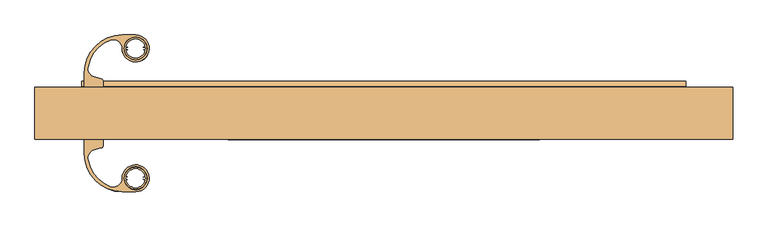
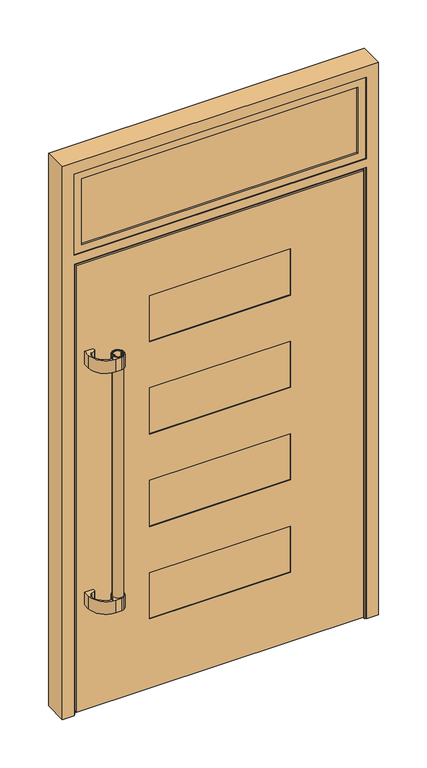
"""IFC4 building model written with IfcOpenShell, lengths in millimetres: door geometry, Jednokrilna vrata s nadsvijetlom : Jednokrilna vrata s nadsvijetlom."""

from ifc_helpers import new_model, si_unit, point, frame, frame_2d, origin, place, context, project, spatial, polyline, circle_curve, trimmed, segment, composite_curve, outline, extrude, faceted_brep, source, transform, mapped, element, save
from ifc_brep_helpers import plane_surface, cylinder_surface, advanced_brep


def door_2316798d(model_context):
    return source(origin(), model_context, "Body", "SolidModel", [
        extrude(outline(composite_curve([segment(trimmed(circle_curve(frame_2d((-419.6507656, 128.9439265)), 19.0), [point((-438.6507656, 128.9439265))], [point((-400.6507656, 128.9439265))], False, "CARTESIAN"), True, "CONTINUOUS"), segment(trimmed(circle_curve(frame_2d((-419.6507656, 128.9439265)), 19.0), [point((-400.6507656, 128.9439265))], [point((-438.6507656, 128.9439265))], False, "CARTESIAN"), True, "CONTINUOUS")], self_intersect=False), holes=[composite_curve([segment(trimmed(circle_curve(frame_2d((-434.1107656, 128.9439265)), 1.55), [point((-433.0147501, 130.039942))], [point((-433.0147501, 127.847911))], True, "CARTESIAN"), True, "CONTINUOUS"), segment(polyline([(-433.0147501, 127.847911), (-431.8681489, 127.847911), (-431.8681489, 126.8767617)]), True, "CONTINUOUS"), segment(trimmed(circle_curve(frame_2d((-434.1107656, 128.9439265)), 3.05), [point((-431.8681489, 126.8767617))], [point((-434.1107656, 125.8939265))], False, "CARTESIAN"), True, "CONTINUOUS"), segment(polyline([(-434.1107656, 125.8939265), (-435.3573725, 125.8939265)]), True, "CONTINUOUS"), segment(trimmed(circle_curve(frame_2d((-419.6507656, 128.9439265)), 16.0), [point((-435.3573725, 125.8939265))], [point((-403.9441587, 125.8939265))], True, "CARTESIAN"), True, "CONTINUOUS"), segment(polyline([(-403.9441587, 125.8939265), (-405.1507656, 125.8939265)]), True, "CONTINUOUS"), segment(trimmed(circle_curve(frame_2d((-405.1507656, 128.9439265)), 3.05), [point((-405.1507656, 125.8939265))], [point((-407.3933824, 126.8767617))], False, "CARTESIAN"), True, "CONTINUOUS"), segment(polyline([(-407.3933824, 126.8767617), (-407.3933824, 127.847911), (-406.2467811, 127.847911)]), True, "CONTINUOUS"), segment(trimmed(circle_curve(frame_2d((-405.1507656, 128.9439265)), 1.55), [point((-406.2467811, 127.847911))], [point((-406.2467811, 130.039942))], True, "CARTESIAN"), True, "CONTINUOUS"), segment(polyline([(-406.2467811, 130.039942), (-407.3933824, 130.039942), (-407.3933824, 131.0110912)]), True, "CONTINUOUS"), segment(trimmed(circle_curve(frame_2d((-405.1507656, 128.9439265)), 3.05), [point((-407.3933824, 131.0110912))], [point((-405.1507656, 131.9939265))], False, "CARTESIAN"), True, "CONTINUOUS"), segment(polyline([(-405.1507656, 131.9939265), (-403.9441587, 131.9939265)]), True, "CONTINUOUS"), segment(trimmed(circle_curve(frame_2d((-419.6507656, 128.9439265)), 16.0), [point((-403.9441587, 131.9939265))], [point((-435.3573725, 131.9939265))], True, "CARTESIAN"), True, "CONTINUOUS"), segment(polyline([(-435.3573725, 131.9939265), (-434.1107656, 131.9939265)]), True, "CONTINUOUS"), segment(trimmed(circle_curve(frame_2d((-434.1107656, 128.9439265)), 3.05), [point((-434.1107656, 131.9939265))], [point((-431.8681489, 131.0110912))], False, "CARTESIAN"), True, "CONTINUOUS"), segment(polyline([(-431.8681489, 131.0110912), (-431.8681489, 130.039942), (-433.0147501, 130.039942)]), True, "CONTINUOUS")], self_intersect=False)]), frame((0.0, 0.0, 432.75), z_axis=(0.0, 0.0, 1.0), x_axis=(1.0, 0.0, 0.0)), (0.0, 0.0, 1.0), 1000.0),
        extrude(outline(composite_curve([segment(polyline([(-501.1976428, 63.4961642), (-506.1976428, 63.4961642), (-506.1976428, 87.6939265)]), True, "CONTINUOUS"), segment(trimmed(circle_curve(frame_2d((-442.2004018, 87.6939265)), 63.997241), [point((-506.1976428, 87.6939265))], [point((-442.2004018, 151.6911674))], False, "CARTESIAN"), True, "CONTINUOUS"), segment(polyline([(-442.2004018, 151.6911674), (-419.2964649, 151.6911674)]), True, "CONTINUOUS"), segment(trimmed(circle_curve(frame_2d((-419.7149101, 128.7516188)), 22.9433648), [point((-419.2964649, 151.6911674))], [point((-406.2786511, 147.3490631))], False, "CARTESIAN"), True, "CONTINUOUS"), segment(trimmed(circle_curve(frame_2d((-419.5730284, 128.9480005)), 22.7010919), [point((-406.2786511, 147.3490631))], [point((-404.4280443, 112.0373817))], False, "CARTESIAN"), True, "CONTINUOUS"), segment(trimmed(circle_curve(frame_2d((-419.6558242, 129.0404487)), 22.8251959), [point((-404.4280443, 112.0373817))], [point((-433.0228801, 110.5387898))], False, "CARTESIAN"), True, "CONTINUOUS"), segment(trimmed(circle_curve(frame_2d((-419.769133, 128.8836153)), 22.631713), [point((-433.0228801, 110.5387898))], [point((-442.4007656, 128.9439265))], False, "CARTESIAN"), True, "CONTINUOUS"), segment(trimmed(circle_curve(frame_2d((-457.4007573, 128.9839)), 15.0000449), [point((-442.4007656, 128.9439265))], [point((-462.5686195, 143.0656097))], True, "CARTESIAN"), True, "CONTINUOUS"), segment(trimmed(circle_curve(frame_2d((-442.2699801, 87.7546247)), 58.9180773), [point((-462.5686195, 143.0656097))], [point((-500.2654887, 98.1402304))], True, "CARTESIAN"), True, "CONTINUOUS"), segment(trimmed(circle_curve(frame_2d((-485.5506214, 95.2098427)), 15.0038159), [point((-500.2654887, 98.1402304))], [point((-489.4338947, 80.7172694))], True, "CARTESIAN"), True, "CONTINUOUS"), segment(polyline([(-489.4338947, 80.7172694), (-477.9035475, 77.6277222)]), True, "CONTINUOUS"), segment(trimmed(circle_curve(frame_2d((-479.1976428, 72.7980931)), 5.0), [point((-477.9035475, 77.6277222))], [point((-474.1976428, 72.7980931))], False, "CARTESIAN"), True, "CONTINUOUS"), segment(polyline([(-474.1976428, 72.7980931), (-474.1976428, 63.4961642), (-501.1976428, 63.4961642)]), True, "CONTINUOUS")], self_intersect=False), holes=[composite_curve([segment(trimmed(circle_curve(frame_2d((-419.6507656, 128.9439265)), 19.25), [point((-438.9007656, 128.9439265))], [point((-400.4007656, 128.9439265))], True, "CARTESIAN"), True, "CONTINUOUS"), segment(trimmed(circle_curve(frame_2d((-419.6507656, 128.9439265)), 19.25), [point((-400.4007656, 128.9439265))], [point((-438.9007656, 128.9439265))], True, "CARTESIAN"), True, "CONTINUOUS")], self_intersect=False)]), frame((0.0, 0.0, 1382.75), z_axis=(0.0, 0.0, 1.0), x_axis=(1.0, 0.0, 0.0)), (0.0, 0.0, 1.0), 50.0),
        extrude(outline(composite_curve([segment(polyline([(-501.1976428, 63.4961642), (-506.1976428, 63.4961642), (-506.1976428, 87.6939265)]), True, "CONTINUOUS"), segment(trimmed(circle_curve(frame_2d((-442.2004018, 87.6939265)), 63.997241), [point((-506.1976428, 87.6939265))], [point((-442.2004018, 151.6911674))], False, "CARTESIAN"), True, "CONTINUOUS"), segment(polyline([(-442.2004018, 151.6911674), (-419.2964649, 151.6911674)]), True, "CONTINUOUS"), segment(trimmed(circle_curve(frame_2d((-419.7149101, 128.7516188)), 22.9433648), [point((-419.2964649, 151.6911674))], [point((-406.2786511, 147.3490631))], False, "CARTESIAN"), True, "CONTINUOUS"), segment(trimmed(circle_curve(frame_2d((-419.5730284, 128.9480005)), 22.7010919), [point((-406.2786511, 147.3490631))], [point((-404.4280443, 112.0373817))], False, "CARTESIAN"), True, "CONTINUOUS"), segment(trimmed(circle_curve(frame_2d((-419.6558242, 129.0404487)), 22.8251959), [point((-404.4280443, 112.0373817))], [point((-433.0228801, 110.5387898))], False, "CARTESIAN"), True, "CONTINUOUS"), segment(trimmed(circle_curve(frame_2d((-419.769133, 128.8836153)), 22.631713), [point((-433.0228801, 110.5387898))], [point((-442.4007656, 128.9439265))], False, "CARTESIAN"), True, "CONTINUOUS"), segment(trimmed(circle_curve(frame_2d((-457.4007573, 128.9839)), 15.0000449), [point((-442.4007656, 128.9439265))], [point((-462.5686195, 143.0656097))], True, "CARTESIAN"), True, "CONTINUOUS"), segment(trimmed(circle_curve(frame_2d((-442.2699801, 87.7546247)), 58.9180773), [point((-462.5686195, 143.0656097))], [point((-500.2654887, 98.1402304))], True, "CARTESIAN"), True, "CONTINUOUS"), segment(trimmed(circle_curve(frame_2d((-485.5506214, 95.2098427)), 15.0038159), [point((-500.2654887, 98.1402304))], [point((-489.4338947, 80.7172694))], True, "CARTESIAN"), True, "CONTINUOUS"), segment(polyline([(-489.4338947, 80.7172694), (-477.9035475, 77.6277222)]), True, "CONTINUOUS"), segment(trimmed(circle_curve(frame_2d((-479.1976428, 72.7980931)), 5.0), [point((-477.9035475, 77.6277222))], [point((-474.1976428, 72.7980931))], False, "CARTESIAN"), True, "CONTINUOUS"), segment(polyline([(-474.1976428, 72.7980931), (-474.1976428, 63.4961642), (-501.1976428, 63.4961642)]), True, "CONTINUOUS")], self_intersect=False), holes=[composite_curve([segment(trimmed(circle_curve(frame_2d((-419.6507656, 128.9439265)), 19.25), [point((-438.9007656, 128.9439265))], [point((-400.4007656, 128.9439265))], True, "CARTESIAN"), True, "CONTINUOUS"), segment(trimmed(circle_curve(frame_2d((-419.6507656, 128.9439265)), 19.25), [point((-400.4007656, 128.9439265))], [point((-438.9007656, 128.9439265))], True, "CARTESIAN"), True, "CONTINUOUS")], self_intersect=False)]), frame((0.0, 0.0, 432.75), z_axis=(0.0, 0.0, 1.0), x_axis=(1.0, 0.0, 0.0)), (0.0, 0.0, 1.0), 50.0),
        extrude(outline(composite_curve([segment(trimmed(circle_curve(frame_2d((-419.6507656, -90.4477309)), 19.0), [point((-438.6507656, -90.4477309))], [point((-400.6507656, -90.4477309))], False, "CARTESIAN"), True, "CONTINUOUS"), segment(trimmed(circle_curve(frame_2d((-419.6507656, -90.4477309)), 19.0), [point((-400.6507656, -90.4477309))], [point((-438.6507656, -90.4477309))], False, "CARTESIAN"), True, "CONTINUOUS")], self_intersect=False), holes=[composite_curve([segment(polyline([(-433.0147501, -91.5437465), (-431.8681489, -91.5437465), (-431.8681489, -92.5148957)]), True, "CONTINUOUS"), segment(trimmed(circle_curve(frame_2d((-434.1107656, -90.4477309)), 3.05), [point((-431.8681489, -92.5148957))], [point((-434.1107656, -93.4977309))], False, "CARTESIAN"), True, "CONTINUOUS"), segment(polyline([(-434.1107656, -93.4977309), (-435.3573725, -93.4977309)]), True, "CONTINUOUS"), segment(trimmed(circle_curve(frame_2d((-419.6507656, -90.4477309)), 16.0), [point((-435.3573725, -93.4977309))], [point((-403.9441587, -93.4977309))], True, "CARTESIAN"), True, "CONTINUOUS"), segment(polyline([(-403.9441587, -93.4977309), (-405.1507656, -93.4977309)]), True, "CONTINUOUS"), segment(trimmed(circle_curve(frame_2d((-405.1507656, -90.4477309)), 3.05), [point((-405.1507656, -93.4977309))], [point((-407.3933824, -92.5148957))], False, "CARTESIAN"), True, "CONTINUOUS"), segment(polyline([(-407.3933824, -92.5148957), (-407.3933824, -91.5437465), (-406.2467811, -91.5437465)]), True, "CONTINUOUS"), segment(trimmed(circle_curve(frame_2d((-405.1507656, -90.4477309)), 1.55), [point((-406.2467811, -91.5437465))], [point((-406.2467811, -89.3517154))], True, "CARTESIAN"), True, "CONTINUOUS"), segment(polyline([(-406.2467811, -89.3517154), (-407.3933824, -89.3517154), (-407.3933824, -88.3805662)]), True, "CONTINUOUS"), segment(trimmed(circle_curve(frame_2d((-405.1507656, -90.4477309)), 3.05), [point((-407.3933824, -88.3805662))], [point((-405.1507656, -87.3977309))], False, "CARTESIAN"), True, "CONTINUOUS"), segment(polyline([(-405.1507656, -87.3977309), (-403.9441587, -87.3977309)]), True, "CONTINUOUS"), segment(trimmed(circle_curve(frame_2d((-419.6507656, -90.4477309)), 16.0), [point((-403.9441587, -87.3977309))], [point((-435.3573725, -87.3977309))], True, "CARTESIAN"), True, "CONTINUOUS"), segment(polyline([(-435.3573725, -87.3977309), (-434.1107656, -87.3977309)]), True, "CONTINUOUS"), segment(trimmed(circle_curve(frame_2d((-434.1107656, -90.4477309)), 3.05), [point((-434.1107656, -87.3977309))], [point((-431.8681489, -88.3805662))], False, "CARTESIAN"), True, "CONTINUOUS"), segment(polyline([(-431.8681489, -88.3805662), (-431.8681489, -89.3517154), (-433.0147501, -89.3517154)]), True, "CONTINUOUS"), segment(trimmed(circle_curve(frame_2d((-434.1107656, -90.4477309)), 1.55), [point((-433.0147501, -89.3517154))], [point((-433.0147501, -91.5437465))], True, "CARTESIAN"), True, "CONTINUOUS")], self_intersect=False)]), frame((0.0, 0.0, 432.75), z_axis=(0.0, 0.0, 1.0), x_axis=(1.0, 0.0, 0.0)), (0.0, 0.0, 1.0), 1000.0),
        extrude(outline(composite_curve([segment(polyline([(-501.1976428, -24.9999687), (-474.1976428, -24.9999687), (-474.1976428, -34.3018976)]), True, "CONTINUOUS"), segment(trimmed(circle_curve(frame_2d((-479.1976428, -34.3018976)), 5.0), [point((-474.1976428, -34.3018976))], [point((-477.9035475, -39.1315267))], False, "CARTESIAN"), True, "CONTINUOUS"), segment(polyline([(-477.9035475, -39.1315267), (-489.4338947, -42.2210739)]), True, "CONTINUOUS"), segment(trimmed(circle_curve(frame_2d((-485.5506214, -56.7136472)), 15.0038159), [point((-489.4338947, -42.2210739))], [point((-500.2654887, -59.6440348))], True, "CARTESIAN"), True, "CONTINUOUS"), segment(trimmed(circle_curve(frame_2d((-442.2699801, -49.2584292)), 58.9180773), [point((-500.2654887, -59.6440348))], [point((-462.5686195, -104.5694142))], True, "CARTESIAN"), True, "CONTINUOUS"), segment(trimmed(circle_curve(frame_2d((-457.4007573, -90.4877045)), 15.0000449), [point((-462.5686195, -104.5694142))], [point((-442.4007656, -90.4477309))], True, "CARTESIAN"), True, "CONTINUOUS"), segment(trimmed(circle_curve(frame_2d((-419.769133, -90.3874198)), 22.631713), [point((-442.4007656, -90.4477309))], [point((-433.0228801, -72.0425943))], False, "CARTESIAN"), True, "CONTINUOUS"), segment(trimmed(circle_curve(frame_2d((-419.6558242, -90.5442532)), 22.8251959), [point((-433.0228801, -72.0425943))], [point((-404.4280443, -73.5411862))], False, "CARTESIAN"), True, "CONTINUOUS"), segment(trimmed(circle_curve(frame_2d((-419.5730284, -90.451805)), 22.7010919), [point((-404.4280443, -73.5411862))], [point((-406.2786511, -108.8528676))], False, "CARTESIAN"), True, "CONTINUOUS"), segment(trimmed(circle_curve(frame_2d((-419.7149101, -90.2554233)), 22.9433648), [point((-406.2786511, -108.8528676))], [point((-419.2964649, -113.1949719))], False, "CARTESIAN"), True, "CONTINUOUS"), segment(polyline([(-419.2964649, -113.1949719), (-442.2004018, -113.1949719)]), True, "CONTINUOUS"), segment(trimmed(circle_curve(frame_2d((-442.2004018, -49.1977309)), 63.997241), [point((-442.2004018, -113.1949719))], [point((-506.1976428, -49.1977309))], False, "CARTESIAN"), True, "CONTINUOUS"), segment(polyline([(-506.1976428, -49.1977309), (-506.1976428, -24.9999687), (-501.1976428, -24.9999687)]), True, "CONTINUOUS")], self_intersect=False), holes=[composite_curve([segment(trimmed(circle_curve(frame_2d((-419.6507656, -90.4477309)), 19.25), [point((-438.9007656, -90.4477309))], [point((-400.4007656, -90.4477309))], True, "CARTESIAN"), True, "CONTINUOUS"), segment(trimmed(circle_curve(frame_2d((-419.6507656, -90.4477309)), 19.25), [point((-400.4007656, -90.4477309))], [point((-438.9007656, -90.4477309))], True, "CARTESIAN"), True, "CONTINUOUS")], self_intersect=False)]), frame((0.0, 0.0, 1382.75), z_axis=(0.0, 0.0, 1.0), x_axis=(1.0, 0.0, 0.0)), (0.0, 0.0, 1.0), 50.0),
        extrude(outline(composite_curve([segment(polyline([(-501.1976428, -24.9999687), (-474.1976428, -24.9999687), (-474.1976428, -34.3018976)]), True, "CONTINUOUS"), segment(trimmed(circle_curve(frame_2d((-479.1976428, -34.3018976)), 5.0), [point((-474.1976428, -34.3018976))], [point((-477.9035475, -39.1315267))], False, "CARTESIAN"), True, "CONTINUOUS"), segment(polyline([(-477.9035475, -39.1315267), (-489.4338947, -42.2210739)]), True, "CONTINUOUS"), segment(trimmed(circle_curve(frame_2d((-485.5506214, -56.7136472)), 15.0038159), [point((-489.4338947, -42.2210739))], [point((-500.2654887, -59.6440348))], True, "CARTESIAN"), True, "CONTINUOUS"), segment(trimmed(circle_curve(frame_2d((-442.2699801, -49.2584292)), 58.9180773), [point((-500.2654887, -59.6440348))], [point((-462.5686195, -104.5694142))], True, "CARTESIAN"), True, "CONTINUOUS"), segment(trimmed(circle_curve(frame_2d((-457.4007573, -90.4877045)), 15.0000449), [point((-462.5686195, -104.5694142))], [point((-442.4007656, -90.4477309))], True, "CARTESIAN"), True, "CONTINUOUS"), segment(trimmed(circle_curve(frame_2d((-419.769133, -90.3874198)), 22.631713), [point((-442.4007656, -90.4477309))], [point((-433.0228801, -72.0425943))], False, "CARTESIAN"), True, "CONTINUOUS"), segment(trimmed(circle_curve(frame_2d((-419.6558242, -90.5442532)), 22.8251959), [point((-433.0228801, -72.0425943))], [point((-404.4280443, -73.5411862))], False, "CARTESIAN"), True, "CONTINUOUS"), segment(trimmed(circle_curve(frame_2d((-419.5730284, -90.451805)), 22.7010919), [point((-404.4280443, -73.5411862))], [point((-406.2786511, -108.8528676))], False, "CARTESIAN"), True, "CONTINUOUS"), segment(trimmed(circle_curve(frame_2d((-419.7149101, -90.2554233)), 22.9433648), [point((-406.2786511, -108.8528676))], [point((-419.2964649, -113.1949719))], False, "CARTESIAN"), True, "CONTINUOUS"), segment(polyline([(-419.2964649, -113.1949719), (-442.2004018, -113.1949719)]), True, "CONTINUOUS"), segment(trimmed(circle_curve(frame_2d((-442.2004018, -49.1977309)), 63.997241), [point((-442.2004018, -113.1949719))], [point((-506.1976428, -49.1977309))], False, "CARTESIAN"), True, "CONTINUOUS"), segment(polyline([(-506.1976428, -49.1977309), (-506.1976428, -24.9999687), (-501.1976428, -24.9999687)]), True, "CONTINUOUS")], self_intersect=False), holes=[composite_curve([segment(trimmed(circle_curve(frame_2d((-419.6507656, -90.4477309)), 19.25), [point((-438.9007656, -90.4477309))], [point((-400.4007656, -90.4477309))], True, "CARTESIAN"), True, "CONTINUOUS"), segment(trimmed(circle_curve(frame_2d((-419.6507656, -90.4477309)), 19.25), [point((-400.4007656, -90.4477309))], [point((-438.9007656, -90.4477309))], True, "CARTESIAN"), True, "CONTINUOUS")], self_intersect=False)]), frame((0.0, 0.0, 432.75), z_axis=(0.0, 0.0, 1.0), x_axis=(1.0, 0.0, 0.0)), (0.0, 0.0, 1.0), 50.0),
        extrude(outline(polyline([(263.0017189, 59.8961642), (263.0017189, -21.4999687), (-263.0017189, -21.4999687), (-263.0017189, 59.8961642), (263.0017189, 59.8961642)])), frame((0.0, 0.0, 245.85), z_axis=(0.0, 0.0, 1.0), x_axis=(1.0, 0.0, 0.0)), (0.0, 0.0, 1.0), 1383.4633548),
        faceted_brep([(510.4978035, 55.0006629, 34.3057913), (510.4978035, 56.2006629, 34.3057913), (510.4978035, 56.2006629, 43.8984108), (510.4978035, 64.4629841, 43.8984108), (510.4978035, 72.0042982, 35.8113415), (510.4978035, 72.0042982, 33.9357913), (510.4978035, 73.5042982, 33.9357913), (510.4978035, 73.5042982, 35.9623235), (510.4978035, 65.0744802, 45.0021965), (510.4978035, 63.4961642, 45.0021965), (510.4978035, 63.4961642, 1754.9978035), (510.4978035, 55.0006629, 1754.9978035), (-510.4978035, 55.0006629, 34.3057913), (-510.4978035, 56.2006629, 34.3057913), (-510.4978035, 56.2006629, 43.8984108), (-510.4978035, 64.4629841, 43.8984108), (-510.4978035, 72.0042982, 35.8113415), (-510.4978035, 72.0042982, 33.9357913), (-510.4978035, 73.5042982, 33.9357913), (-510.4978035, 73.5042982, 35.9623235), (-510.4978035, 65.0744802, 45.0021965), (-510.4978035, 63.4961642, 45.0021965), (-510.4978035, 63.4961642, 1754.9978035), (263.0017189, 63.4961642, 839.0325), (-263.0017189, 63.4961642, 839.0325), (-263.0017189, 63.4961642, 656.805), (263.0017189, 63.4961642, 656.805), (263.0017189, 63.4961642, 474.5775), (-263.0017189, 63.4961642, 474.5775), (-263.0017189, 63.4961642, 292.35), (263.0017189, 63.4961642, 292.35), (263.0017189, 63.4961642, 1567.9425), (-263.0017189, 63.4961642, 1567.9425), (-263.0017189, 63.4961642, 1385.715), (263.0017189, 63.4961642, 1385.715), (263.0017189, 63.4961642, 1203.4875), (-263.0017189, 63.4961642, 1203.4875), (-263.0017189, 63.4961642, 1021.26), (263.0017189, 63.4961642, 1021.26), (524.4976416, 55.0006629, 1768.9976416), (524.4976416, 55.0006629, 31.0023584), (-524.4976416, 55.0006629, 31.0023584), (-524.4976416, 55.0006629, 1768.9976416), (-510.4978035, 55.0006629, 1754.9978035), (455.0017189, -21.4999687, 1699.5017189), (455.0017189, 59.8961642, 1699.5017189), (455.0017189, 59.8961642, 100.4982811), (455.0017189, -21.4999687, 100.4982811), (-455.0017189, 59.8961642, 1699.5017189), (-455.0017189, 59.8961642, 100.4982811), (-263.0017189, 59.8961642, 839.0325), (263.0017189, 59.8961642, 839.0325), (263.0017189, 59.8961642, 656.805), (-263.0017189, 59.8961642, 656.805), (-263.0017189, 59.8961642, 474.5775), (263.0017189, 59.8961642, 474.5775), (263.0017189, 59.8961642, 292.35), (-263.0017189, 59.8961642, 292.35), (-263.0017189, 59.8961642, 1567.9425), (263.0017189, 59.8961642, 1567.9425), (263.0017189, 59.8961642, 1385.715), (-263.0017189, 59.8961642, 1385.715), (-263.0017189, 59.8961642, 1203.4875), (263.0017189, 59.8961642, 1203.4875), (263.0017189, 59.8961642, 1021.26), (-263.0017189, 59.8961642, 1021.26), (-455.0017189, -21.4999687, 100.4982811), (-455.0017189, -21.4999687, 1699.5017189), (263.0017189, -21.4999687, 839.0325), (-263.0017189, -21.4999687, 839.0325), (-263.0017189, -21.4999687, 656.805), (263.0017189, -21.4999687, 656.805), (263.0017189, -21.4999687, 474.5775), (-263.0017189, -21.4999687, 474.5775), (-263.0017189, -21.4999687, 292.35), (263.0017189, -21.4999687, 292.35), (263.0017189, -21.4999687, 1567.9425), (-263.0017189, -21.4999687, 1567.9425), (-263.0017189, -21.4999687, 1385.715), (263.0017189, -21.4999687, 1385.715), (263.0017189, -21.4999687, 1203.4875), (-263.0017189, -21.4999687, 1203.4875), (-263.0017189, -21.4999687, 1021.26), (263.0017189, -21.4999687, 1021.26), (535.4976428, -13.0033384, 1779.9976428), (535.4976428, -13.0033384, 20.0023572), (-535.4976428, -13.0033384, 20.0023572), (-535.4976428, -13.0033384, 1779.9976428), (524.4976416, -13.0033384, 31.0023584), (524.4976416, -13.0033384, 1768.9976416), (-524.4976416, -13.0033384, 1768.9976416), (-524.4976416, -13.0033384, 31.0023584), (535.4976428, -24.9999687, 1779.9976428), (535.4976428, -24.9999687, 20.0023572), (-535.4976428, -24.9999687, 1779.9976428), (-535.4976428, -24.9999687, 20.0023572), (-263.0017189, -24.9999687, 839.0325), (263.0017189, -24.9999687, 839.0325), (263.0017189, -24.9999687, 656.805), (-263.0017189, -24.9999687, 656.805), (-263.0017189, -24.9999687, 474.5775), (263.0017189, -24.9999687, 474.5775), (263.0017189, -24.9999687, 292.35), (-263.0017189, -24.9999687, 292.35), (-263.0017189, -24.9999687, 1567.9425), (263.0017189, -24.9999687, 1567.9425), (263.0017189, -24.9999687, 1385.715), (-263.0017189, -24.9999687, 1385.715), (-263.0017189, -24.9999687, 1203.4875), (263.0017189, -24.9999687, 1203.4875), (263.0017189, -24.9999687, 1021.26), (-263.0017189, -24.9999687, 1021.26)], [[[0, 1, 2, 3, 4, 5, 6, 7, 8, 9, 10, 11]], [[12, 13, 1, 0]], [[13, 14, 2, 1]], [[14, 15, 3, 2]], [[15, 16, 4, 3]], [[16, 17, 5, 4]], [[17, 18, 6, 5]], [[18, 19, 7, 6]], [[19, 20, 8, 7]], [[8, 20, 21, 9]], [[10, 9, 21, 22], [23, 24, 25, 26], [27, 28, 29, 30], [31, 32, 33, 34], [35, 36, 37, 38]], [[39, 40, 41, 42], [0, 11, 43, 12]], [[44, 45, 46, 47]], [[46, 45, 48, 49], [50, 51, 52, 53], [54, 55, 56, 57], [58, 59, 60, 61], [62, 63, 64, 65]], [[47, 46, 49, 66]], [[44, 47, 66, 67], [68, 69, 70, 71], [72, 73, 74, 75], [76, 77, 78, 79], [80, 81, 82, 83]], [[84, 85, 86, 87], [88, 89, 90, 91]], [[85, 84, 92, 93]], [[92, 94, 95, 93], [96, 97, 98, 99], [100, 101, 102, 103], [104, 105, 106, 107], [108, 109, 110, 111]], [[86, 85, 93, 95]], [[89, 88, 40, 39]], [[40, 88, 91, 41]], [[66, 49, 48, 67]], [[87, 86, 95, 94]], [[41, 91, 90, 42]], [[43, 22, 21, 20, 19, 18, 17, 16, 15, 14, 13, 12]], [[23, 51, 50, 24]], [[68, 97, 96, 69]], [[51, 23, 26, 52]], [[97, 68, 71, 98]], [[25, 53, 52, 26]], [[70, 99, 98, 71]], [[24, 50, 53, 25]], [[69, 96, 99, 70]], [[27, 55, 54, 28]], [[72, 101, 100, 73]], [[55, 27, 30, 56]], [[101, 72, 75, 102]], [[29, 57, 56, 30]], [[74, 103, 102, 75]], [[28, 54, 57, 29]], [[73, 100, 103, 74]], [[43, 11, 10, 22]], [[45, 44, 67, 48]], [[84, 87, 94, 92]], [[89, 39, 42, 90]], [[31, 59, 58, 32]], [[76, 105, 104, 77]], [[32, 58, 61, 33]], [[77, 104, 107, 78]], [[33, 61, 60, 34]], [[78, 107, 106, 79]], [[59, 31, 34, 60]], [[105, 76, 79, 106]], [[35, 63, 62, 36]], [[80, 109, 108, 81]], [[36, 62, 65, 37]], [[81, 108, 111, 82]], [[37, 65, 64, 38]], [[82, 111, 110, 83]], [[63, 35, 38, 64]], [[109, 80, 83, 110]]]),
        advanced_brep(
        [(-540.499939, -21.5038013, 10.0), (-545.499939, -21.5038013, 10.0), (-545.499939, -24.9999687, 10.0), (-590.0, -24.9999687, 10.0), (-590.0, 63.5, 10.0), (590.0, 63.5, 10.0), (590.0, -24.9999687, 10.0), (545.499939, -24.9999687, 10.0), (545.499939, -21.5038013, 10.0), (540.499939, -21.5038013, 10.0), (540.499939, -13.2027684, 10.0), (-540.499939, -13.2027684, 10.0), (-540.499939, -21.5038013, 1785.0001761), (540.499939, -21.5038013, 1785.0001761), (545.499939, -21.5038013, 1790.0001761), (-545.499939, -21.5038013, 1790.0001761), (-545.499939, -24.9999687, 1790.0001761), (545.499939, -24.9999687, 1790.0001692), (590.0, -24.9999687, 2190.0), (-590.0, -24.9999687, 2190.0), (-545.499939, -24.9999687, 2145.499939), (545.499939, -24.9999687, 2145.499939), (545.499939, -24.9999687, 1825.000176), (-545.499939, -24.9999687, 1825.000176), (-590.0, 63.5, 2190.0), (590.0, 63.5, 2190.0), (-515.5, 63.5, 1760.0003523), (-515.5, 63.5, 25.6983046), (515.5, 63.5, 25.6983046), (515.5, 63.5, 1760.0003523), (515.5, 63.5, 2115.5), (-515.5, 63.5, 2115.5), (-515.5, 63.5, 1855.0), (515.5, 63.5, 1855.0), (540.499939, -13.2027684, 1785.0001761), (530.9940778, -13.2027684, 1785.0001761), (530.9940778, -13.2027684, 25.5020091), (-530.9940778, -13.2027684, 25.5020091), (-530.9940778, -13.2027684, 1785.0001761), (-540.499939, -13.2027684, 1785.0001761), (-515.5, 55.0044986, 1760.0003523), (-515.5, 55.0044986, 27.2306509), (-530.9940778, 55.0044986, 27.2306509), (-530.9940778, 48.6457469, 28.3775885), (530.9940778, 48.6457469, 28.3775885), (530.9940778, 55.0044986, 27.2306509), (515.5, 55.0044986, 27.2306509), (515.5, 55.0009757, 1760.0003523), (530.9940778, 55.0044986, 1775.5001304), (-530.9940778, 55.0044986, 1775.5001304), (530.9940778, -12.9392393, 1785.0001761), (530.9940778, -12.9392393, 1775.5001304), (530.9940778, 28.1553167, 30.02273), (530.9940778, 26.341712, 29.5983726), (530.9940778, 19.5923635, 25.5020091), (-530.9940778, -12.9392393, 1785.0001761), (-530.9940778, 19.5923635, 25.5020091), (-530.9940778, 26.341712, 29.5983726), (-530.9940778, 28.1553167, 30.02273), (-530.9940778, -12.9392393, 1775.5001304), (-515.5, 55.9961674, 2115.5), (-515.5, 55.9961674, 1855.0), (-545.499939, -21.5038013, 2145.499939), (-545.499939, -21.5038013, 1825.000176), (545.499939, -21.5038013, 2145.499939), (545.499939, -21.5038013, 1825.000176), (-515.499939, -21.5038013, 2115.499939), (515.499939, -21.5038013, 2115.499939), (515.499939, -21.5038013, 1855.000176), (-515.499939, -21.5038013, 1855.000176), (-515.499939, -16.0038326, 2115.499939), (-515.499939, -16.0038326, 1855.000176), (-531.499939, -16.0038326, 2131.499939), (531.499939, -16.0038326, 2131.499939), (531.499939, -16.0038326, 1839.0), (-531.499939, -16.0038326, 1839.0), (515.499939, -16.0038326, 2115.499939), (515.499939, -16.0038326, 1855.000176), (-531.499939, 55.9961674, 2131.499939), (-531.499939, 55.9961674, 1839.0), (531.499939, 55.9961674, 2131.499939), (531.499939, 55.9961674, 1839.0), (515.5, 55.9961674, 2115.5), (515.5, 55.9961674, 1855.0)],
        [
            (0, 1),
            (1, 2),
            (2, 3),
            (3, 4),
            (4, 5),
            (5, 6),
            (6, 7),
            (7, 8),
            (8, 9),
            (9, 10),
            (10, 11),
            (11, 0),
            (0, 12),
            (12, 13),
            (13, 9),
            (8, 14),
            (14, 15),
            (15, 1),
            (15, 16),
            (16, 2),
            (16, 17),
            (17, 7),
            (6, 18),
            (18, 19),
            (19, 3),
            (20, 21),
            (21, 22),
            (22, 23),
            (23, 20),
            (19, 24),
            (24, 4),
            (24, 25),
            (25, 5),
            (26, 27),
            (27, 28),
            (28, 29),
            (29, 26),
            (30, 31),
            (31, 32),
            (32, 33),
            (33, 30),
            (25, 18),
            (17, 14),
            (34, 10),
            (13, 34),
            (34, 35),
            (35, 36),
            (36, 37),
            (37, 38),
            (38, 39),
            (39, 11),
            (39, 12),
            (26, 40),
            (40, 41),
            (41, 27),
            (41, 42),
            (42, 43),
            (43, 44),
            (44, 45),
            (45, 46),
            (46, 28),
            (47, 29),
            (46, 47),
            (40, 47),
            (45, 48),
            (48, 49),
            (49, 42),
            (35, 50),
            (50, 51),
            (51, 48),
            (44, 52),
            (52, 53, circle_curve(frame((530.9940778, 27.8982423, 27.0337648), z_axis=(1.0, 0.0, 0.0), x_axis=(0.0, -0.5188434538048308, 0.8548692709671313)), 3.0)),
            (53, 54),
            (54, 36),
            (55, 38),
            (37, 56),
            (56, 57),
            (57, 58, circle_curve(frame((-530.9940778, 27.8982423, 27.0337648), z_axis=(-1.0, 0.0, 0.0), x_axis=(0.0, -0.5188434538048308, 0.8548692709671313)), 3.0)),
            (58, 43),
            (49, 59),
            (59, 55),
            (54, 56),
            (53, 57),
            (52, 58),
            (31, 60),
            (60, 61),
            (61, 32),
            (62, 20),
            (23, 63),
            (63, 62),
            (64, 62),
            (63, 65),
            (65, 64),
            (66, 67),
            (67, 68),
            (68, 69),
            (69, 66),
            (70, 66),
            (69, 71),
            (71, 70),
            (72, 73),
            (73, 74),
            (74, 75),
            (75, 72),
            (76, 70),
            (71, 77),
            (77, 76),
            (78, 72),
            (75, 79),
            (79, 78),
            (80, 78),
            (79, 81),
            (81, 80),
            (60, 82),
            (82, 83),
            (83, 61),
            (30, 82),
            (64, 21),
            (76, 67),
            (80, 73),
            (33, 83),
            (65, 22),
            (77, 68),
            (81, 74),
            (55, 50),
            (59, 51),
        ],
        [
            plane_surface(frame((-590.0, -24.9999687, 10.0), z_axis=(0.0, 0.0, -1.0), x_axis=(0.0, -1.0, 0.0))),
            plane_surface(frame((-540.499939, -21.5038013, 10.0), z_axis=(0.0, -1.0, 0.0), x_axis=(0.0, 0.0, 1.0))),
            plane_surface(frame((-545.499939, -21.5038013, 10.0), z_axis=(1.0, 0.0, 0.0), x_axis=(0.0, 0.0, 1.0))),
            plane_surface(frame((-545.499939, -24.9999687, 10.0), z_axis=(0.0, -1.0, 0.0), x_axis=(0.0, 0.0, 1.0))),
            plane_surface(frame((-590.0, -24.9999687, 10.0), z_axis=(-1.0, 0.0, 0.0), x_axis=(0.0, 0.0, 1.0))),
            plane_surface(frame((-590.0, 63.5, 10.0), z_axis=(0.0, 1.0, 0.0), x_axis=(0.0, 0.0, 1.0))),
            plane_surface(frame((590.0, -24.9999687, 2190.0), z_axis=(1.0, 0.0, 0.0), x_axis=(0.0, 0.0, -1.0))),
            plane_surface(frame((545.499939, -21.5038013, 1790.0), z_axis=(-1.0, 0.0, 0.0), x_axis=(0.0, 0.0, -1.0))),
            plane_surface(frame((540.499939, -13.2027684, 1790.0), z_axis=(-1.0, 0.0, 0.0), x_axis=(0.0, 0.0, -1.0))),
            plane_surface(frame((-530.9940778, -13.2027684, 10.0), z_axis=(0.0, -1.0, 0.0), x_axis=(0.0, 0.0, 1.0))),
            plane_surface(frame((-540.499939, -13.2027684, 10.0), z_axis=(1.0, 0.0, 0.0), x_axis=(0.0, 0.0, 1.0))),
            plane_surface(frame((-515.5, 63.5, 10.0), z_axis=(1.0, 0.0, 0.0), x_axis=(0.0, 0.0, 1.0))),
            plane_surface(frame((-590.0, 48.6457469, 28.3775885), z_axis=(0.0, 0.17750711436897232, 0.98411951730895), x_axis=(1.0, 0.0, 0.0))),
            plane_surface(frame((515.5, 63.5, 1790.0), z_axis=(-1.0, 0.0, 0.0), x_axis=(0.0, 0.0, -1.0))),
            plane_surface(frame((-515.5, 55.0044986, 10.0), z_axis=(0.0, -1.0, 0.0), x_axis=(0.0, 0.0, 1.0))),
            plane_surface(frame((530.9940778, 55.0044986, 1790.0), z_axis=(-1.0, 0.0, 0.0), x_axis=(0.0, 0.0, -1.0))),
            plane_surface(frame((-530.9940778, 55.0044986, 10.0), z_axis=(1.0, 0.0, 0.0), x_axis=(0.0, 0.0, 1.0))),
            plane_surface(frame((-590.0, -13.2052758, 25.5020091), z_axis=(0.0, 0.0, 1.0), x_axis=(1.0, 0.0, 0.0))),
            plane_surface(frame((-590.0, 19.5923635, 25.5020091), z_axis=(0.0, -0.5188434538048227, 0.8548692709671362), x_axis=(1.0, 0.0, 0.0))),
            cylinder_surface(frame((-590.0, 27.8982423, 27.0337648), z_axis=(-1.0, 0.0, 0.0), x_axis=(0.0, -0.5188434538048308, 0.8548692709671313)), 3.0),
            plane_surface(frame((-590.0, 28.1553167, 30.02273), z_axis=(0.0, 0.08003075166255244, 0.9967923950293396), x_axis=(1.0, 0.0, 0.0))),
            plane_surface(frame((-515.5, 63.5, 1804.0001761), z_axis=(1.0, 0.0, 0.0), x_axis=(0.0, 0.0, 1.0))),
            plane_surface(frame((-545.499939, -21.5038013, 1804.0001761), z_axis=(1.0, 0.0, 0.0), x_axis=(0.0, 0.0, 1.0))),
            plane_surface(frame((-515.499939, -21.5038013, 1804.0001761), z_axis=(0.0, -1.0, 0.0), x_axis=(0.0, 0.0, 1.0))),
            plane_surface(frame((-515.499939, -16.0038326, 1804.0001761), z_axis=(1.0, 0.0, 0.0), x_axis=(0.0, 0.0, 1.0))),
            plane_surface(frame((-531.499939, -16.0038326, 1804.0001761), z_axis=(0.0, 1.0, 0.0), x_axis=(0.0, 0.0, 1.0))),
            plane_surface(frame((-531.499939, 55.9961674, 1804.0001761), z_axis=(1.0, 0.0, 0.0), x_axis=(0.0, 0.0, 1.0))),
            plane_surface(frame((-515.5, 55.9961674, 1804.0001761), z_axis=(0.0, -1.0, 0.0), x_axis=(0.0, 0.0, 1.0))),
            plane_surface(frame((-515.5, 63.5, 2115.5), z_axis=(0.0, 0.0, -1.0), x_axis=(1.0, 0.0, 0.0))),
            plane_surface(frame((-590.0, -24.9999687, 2190.0), z_axis=(0.0, 0.0, 1.0), x_axis=(1.0, 0.0, 0.0))),
            plane_surface(frame((-545.499939, -21.5038013, 2145.499939), z_axis=(0.0, 0.0, -1.0), x_axis=(1.0, 0.0, 0.0))),
            plane_surface(frame((-515.499939, -16.0038326, 2115.499939), z_axis=(0.0, 0.0, -1.0), x_axis=(1.0, 0.0, 0.0))),
            plane_surface(frame((-531.499939, 55.9961674, 2131.499939), z_axis=(0.0, 0.0, -1.0), x_axis=(1.0, 0.0, 0.0))),
            plane_surface(frame((515.5, 63.5, 2115.5), z_axis=(-1.0, 0.0, 0.0), x_axis=(0.0, 0.0, -1.0))),
            plane_surface(frame((545.499939, -21.5038013, 2145.499939), z_axis=(-1.0, 0.0, 0.0), x_axis=(0.0, 0.0, -1.0))),
            plane_surface(frame((515.499939, -16.0038326, 2115.499939), z_axis=(-1.0, 0.0, 0.0), x_axis=(0.0, 0.0, -1.0))),
            plane_surface(frame((531.499939, 55.9961674, 2131.499939), z_axis=(-1.0, 0.0, 0.0), x_axis=(0.0, 0.0, -1.0))),
            plane_surface(frame((-590.0, -12.9392393, 1785.0001761), z_axis=(0.0, 0.0, -1.0), x_axis=(1.0, 0.0, 0.0))),
            plane_surface(frame((-590.0, -12.9392393, 1775.5001304), z_axis=(0.0, -1.0, 0.0), x_axis=(1.0, 0.0, 0.0))),
            plane_surface(frame((-590.0, 55.0007212, 1775.5001304), z_axis=(0.0, 0.0, -1.0), x_axis=(1.0, 0.0, 0.0))),
            plane_surface(frame((-590.0, 63.5, 1760.0003523), z_axis=(0.0, 0.0, -1.0), x_axis=(1.0, 0.0, 0.0))),
            plane_surface(frame((-590.0, 55.9961674, 1855.0), z_axis=(0.0, 0.0, 1.0), x_axis=(1.0, 0.0, 0.0))),
            plane_surface(frame((-590.0, -16.0038326, 1839.0), z_axis=(0.0, 0.0, 1.0), x_axis=(1.0, 0.0, 0.0))),
            plane_surface(frame((-590.0, -21.5038326, 1855.000176), z_axis=(0.0, 0.0, 1.0), x_axis=(1.0, 0.0, 0.0))),
            plane_surface(frame((-590.0, -24.9999687, 1825.000176), z_axis=(0.0, 0.0, 1.0), x_axis=(1.0, 0.0, 0.0))),
            plane_surface(frame((-590.0, -21.5038013, 1790.0001761), z_axis=(0.0, 0.0, -1.0), x_axis=(1.0, 0.0, 0.0))),
        ],
        [
            (0, [[1, 2, 3, 4, 5, 6, 7, 8, 9, 10, 11, 12]]),
            (1, [[-1, 13, 14, 15, -9, 16, 17, 18]]),
            (2, [[-2, -18, 19, 20]]),
            (3, [[-3, -20, 21, 22, -7, 23, 24, 25], [26, 27, 28, 29]]),
            (4, [[30, 31, -4, -25]]),
            (5, [[-5, -31, 32, 33], [34, 35, 36, 37], [38, 39, 40, 41]]),
            (6, [[-33, 42, -23, -6]]),
            (7, [[-8, -22, 43, -16]]),
            (8, [[44, -10, -15, 45]]),
            (9, [[-11, -44, 46, 47, 48, 49, 50, 51]]),
            (10, [[-12, -51, 52, -13]]),
            (11, [[53, 54, 55, -34]]),
            (12, [[-35, -55, 56, 57, 58, 59, 60, 61]]),
            (13, [[62, -36, -61, 63]]),
            (14, [[64, -63, -60, 65, 66, 67, -56, -54]]),
            (15, [[68, 69, 70, -65, -59, 71, 72, 73, 74, -47]]),
            (16, [[75, -49, 76, 77, 78, 79, -57, -67, 80, 81]]),
            (17, [[-48, -74, 82, -76]]),
            (18, [[83, -77, -82, -73]]),
            (19, [[-83, -72, 84, -78]]),
            (20, [[-58, -79, -84, -71]]),
            (21, [[85, 86, 87, -39]]),
            (22, [[88, -29, 89, 90]]),
            (23, [[91, -90, 92, 93], [94, 95, 96, 97]]),
            (24, [[98, -97, 99, 100]]),
            (25, [[101, 102, 103, 104], [105, -100, 106, 107]]),
            (26, [[108, -104, 109, 110]]),
            (27, [[111, -110, 112, 113], [114, 115, 116, -86]]),
            (28, [[-85, -38, 117, -114]]),
            (29, [[-32, -30, -24, -42]]),
            (30, [[-26, -88, -91, 118]]),
            (31, [[-94, -98, -105, 119]]),
            (32, [[-101, -108, -111, 120]]),
            (33, [[-117, -41, 121, -115]]),
            (34, [[-118, -93, 122, -27]]),
            (35, [[-119, -107, 123, -95]]),
            (36, [[-120, -113, 124, -102]]),
            (37, [[-75, 125, -68, -46, -45, -14, -52, -50]]),
            (38, [[-81, 126, -69, -125]]),
            (39, [[-80, -66, -70, -126]]),
            (40, [[-53, -37, -62, -64]]),
            (41, [[-116, -121, -40, -87]]),
            (42, [[-109, -103, -124, -112]]),
            (43, [[-96, -123, -106, -99]]),
            (44, [[-28, -122, -92, -89]]),
            (45, [[-19, -17, -43, -21]]),
        ],
    ),
        extrude(outline(polyline([(-531.499939, 55.0044986), (531.499939, 55.0044986), (531.499939, -16.0038326), (-531.499939, -16.0038326), (-531.499939, 55.0044986)])), frame((0.0, 0.0, 1839.0), z_axis=(0.0, 0.0, 1.0), x_axis=(1.0, 0.0, 0.0)), (0.0, 0.0, 1.0), 292.499939),
    ])


if __name__ == "__main__":
    model = new_model("IFC4")
    model_context = context("Model", 3, world=origin())
    ifc_project = project(units=[si_unit("LENGTHUNIT", "METRE", prefix="MILLI")], contexts=[model_context])
    site = spatial("IfcSite", under=ifc_project)
    building = spatial("IfcBuilding", under=site)
    placement = place(None, origin())
    door_shape = door_2316798d(model_context)
    element("IfcDoor", 1, ObjectType="Jednokrilna vrata s nadsvijetlom : Jednokrilna vrata s nadsvijetlom", at=placement, inside=building, context=model_context, shape_type="MappedRepresentation", body=[
        mapped(door_shape, transform((0.0, 0.0, 0.0), x_axis=(1.0, 0.0, 0.0), y_axis=(0.0, 1.0, 0.0), z_axis=(0.0, 0.0, 1.0))),
    ])
    save(model, "model.ifc")
